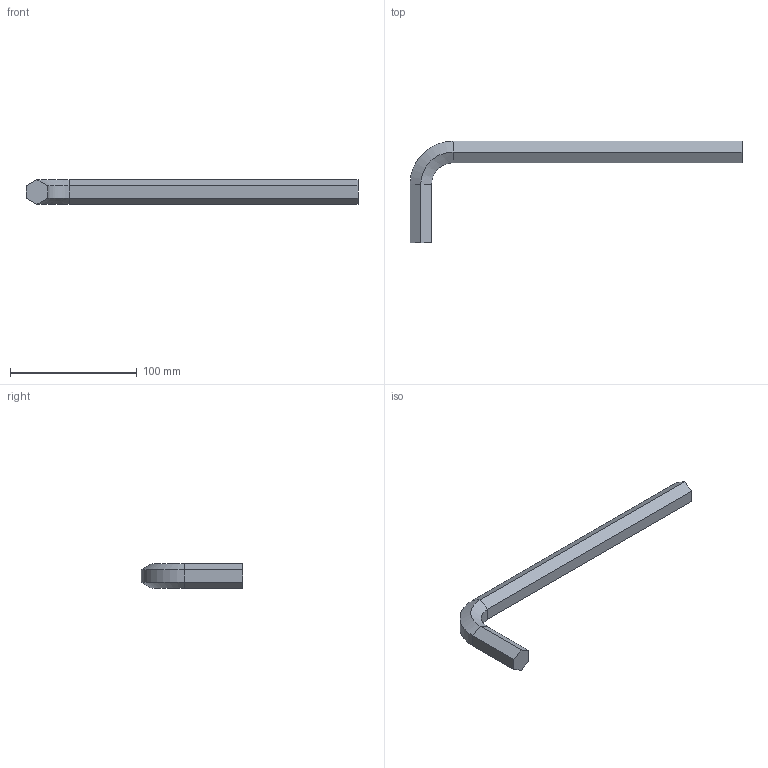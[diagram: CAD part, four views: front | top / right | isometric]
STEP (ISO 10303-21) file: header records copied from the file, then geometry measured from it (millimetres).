
FILE_DESCRIPTION(/* description */ (''),/* implementation_level */ '2;1');
FILE_NAME(/* name */ 'C:\Users\D\Documents\Inventor\各種小物\JIS\02-分解工具\六角棒スパナ2\hk-17-M.stp',/* time_stamp */ '2022-04-21T13:52:34+09:00',/* author */ ('D'),/* organization */ (''),/* preprocessor_version */ 'ST-DEVELOPER v18',/* originating_system */ 'Autodesk Inventor 2020',/* authorisation */ '');
FILE_SCHEMA (('AUTOMOTIVE_DESIGN { 1 0 10303 214 3 1 1 }'));
Length unit declared in the file: millimetre
Products named in the file (1): hk-0.7
Bounding box: 262 x 80 x 19.63 mm (x, y, z)
Volume: 78602.2 mm3; surface area: 18995.2 mm2
Topology: 1 solids, 1 shells, 20 faces, 42 edges, 24 vertices
Faces by surface type: plane 14, cone 4, cylinder 2
Entity records: 557 total; most frequent: DIRECTION 90, CARTESIAN_POINT 87, ORIENTED_EDGE 84, EDGE_CURVE 42, LINE 36, VECTOR 36, AXIS2_PLACEMENT_3D 27, VERTEX_POINT 24
